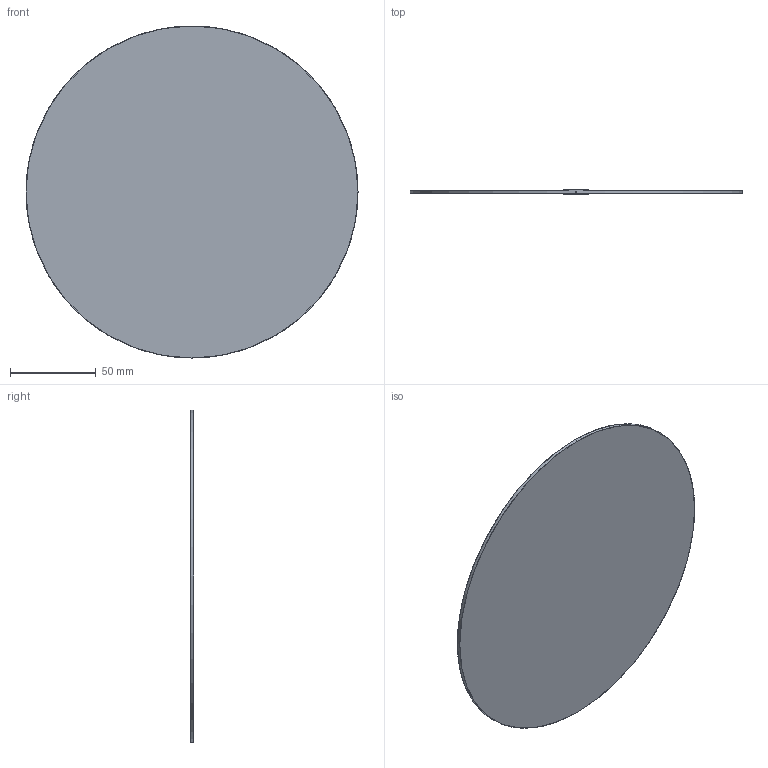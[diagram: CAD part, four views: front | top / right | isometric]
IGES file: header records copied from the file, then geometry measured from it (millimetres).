
Start section: SolidWorks IGES file using analytic representation for surfaces
Global section: file name: C:\Users\danielet\Desktop\3D CARLOS\ISIA-DIF34534-3D\ISIA-DIF34534-3D.IGS; native system: SolidWorks 2018; preprocessor: SolidWorks 2018; author: danielet; date: 211122.130601; units: millimetre
Bounding box: 194 x 2 x 194 mm (x, y, z)
Surface area: 60337.5 mm2 (no closed solid volume)
Topology: 0 solids, 0 shells, 4 faces, 136 edges, 136 vertices
Faces by surface type: revolution 2, bspline 2
